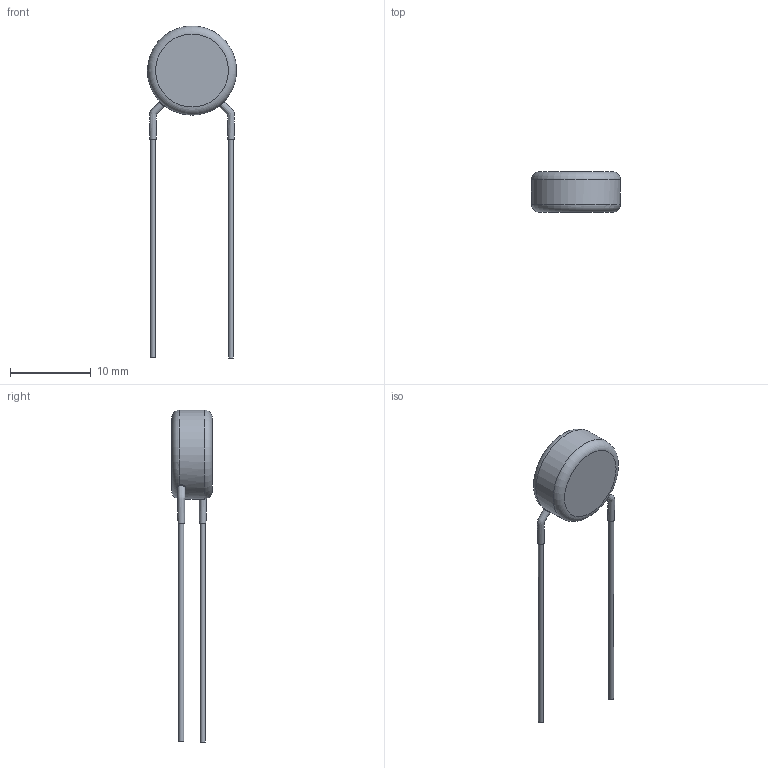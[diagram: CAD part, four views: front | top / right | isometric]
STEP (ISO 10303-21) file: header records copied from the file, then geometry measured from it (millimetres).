
FILE_DESCRIPTION(/* description */ (''),/* implementation_level */ '2;1');
FILE_NAME(/* name */ 'I:\Marketing\M6t1\3D-Models\Zchng-Werk-3\Upload for homepage\BCC neu\AY2 Straight\Step\AY2332#41Y5US63L0.stp',/* time_stamp */ '2023-07-13T14:13:46+02:00',/* author */ ('truediger'),/* organization */ (''),/* preprocessor_version */ 'ST-DEVELOPER v18',/* originating_system */ 'Autodesk Inventor 2020',/* authorisation */ '');
FILE_SCHEMA (('AUTOMOTIVE_DESIGN { 1 0 10303 214 3 1 1 }'));
Length unit declared in the file: millimetre
Products named in the file (1): Bauteil2
Bounding box: 11 x 5 x 41 mm (x, y, z)
Volume: 481.9 mm3; surface area: 460 mm2
Topology: 1 solids, 1 shells, 19 faces, 43 edges, 28 vertices
Faces by surface type: bspline 8, plane 6, cylinder 3, torus 2
Full cylindrical faces by diameter (mm): 0.6 x2, 11 x1
Entity records: 1812 total; most frequent: CARTESIAN_POINT 1351, ORIENTED_EDGE 86, DIRECTION 75, EDGE_CURVE 43, AXIS2_PLACEMENT_3D 36, VERTEX_POINT 28, CIRCLE 24, EDGE_LOOP 21
